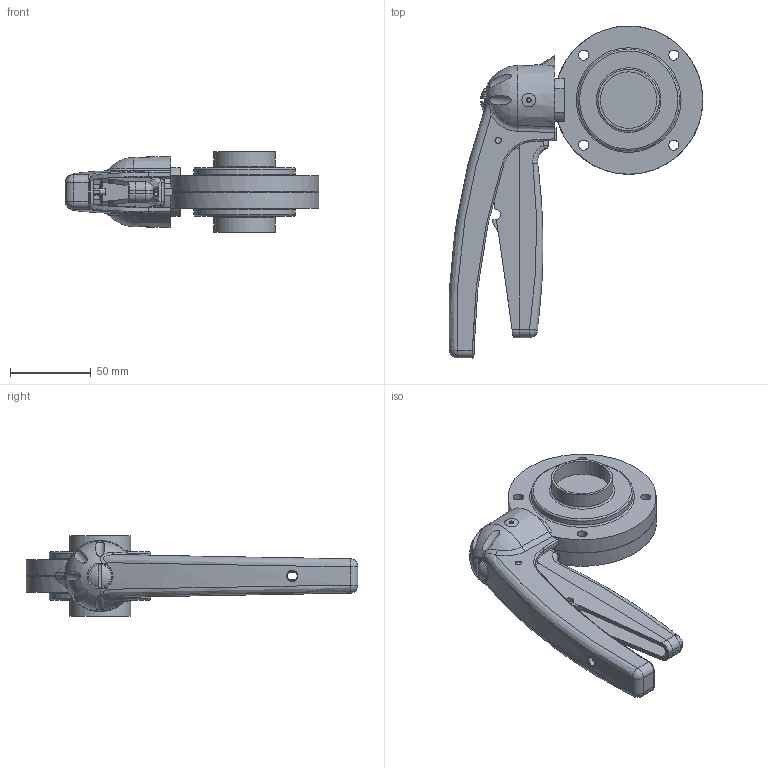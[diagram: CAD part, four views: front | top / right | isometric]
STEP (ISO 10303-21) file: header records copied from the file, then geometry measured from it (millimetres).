
FILE_DESCRIPTION(/* description */ ('VVF VALV.FARF.DN38.1 S/S EPD 316 LEVA 5POS.'),/* implementation_level */ '2;1');
FILE_NAME(/* name */ 'C:\_DED_PWS\MARZ-M\DB\B\EBA\BEBAAL112BEAA-00^SAGOMA.step',/* time_stamp */ '2018-11-23T09:48:32+01:00',/* author */ (''),/* organization */ (''),/* preprocessor_version */ 'ST-DEVELOPER v17',/* originating_system */ 'Autodesk Inventor 2018',/* authorisation */ '');
FILE_SCHEMA (('CONFIG_CONTROL_DESIGN'));
Length unit declared in the file: millimetre
Products named in the file (3): BEBAAL112BEAA; MEZZO-COR-DN038.1-SALD-INCHES; Maniglia-5-posizioni-nuova-versione finale 01-2008- 25 - - 65
Assembly tree (3 placements, depth 2):
  BEBAAL112BEAA
    MEZZO-COR-DN038.1-SALD-INCHES  x2
    Maniglia-5-posizioni-nuova-versione finale 01-2008- 25 - - 65
Bounding box: 157.39 x 206 x 50 mm (x, y, z)
Volume: 267747.6 mm3; surface area: 95131.4 mm2
Topology: 3 solids, 4 shells, 442 faces, 1181 edges, 764 vertices
Faces by surface type: plane 198, cylinder 102, bspline 81, cone 28, sphere 18, torus 15
Full cylindrical faces by diameter (mm): 4 x3, 6 x2, 6.2 x8, 6.5 x1, 10 x2, 13 x1, 14.5 x1, 35.1 x2, 38.1 x2, 63 x2, 92 x2
Entity records: 22525 total; most frequent: CARTESIAN_POINT 12046, ORIENTED_EDGE 2248, DIRECTION 1908, EDGE_CURVE 1124, VERTEX_POINT 723, AXIS2_PLACEMENT_3D 688, LINE 532, VECTOR 532
